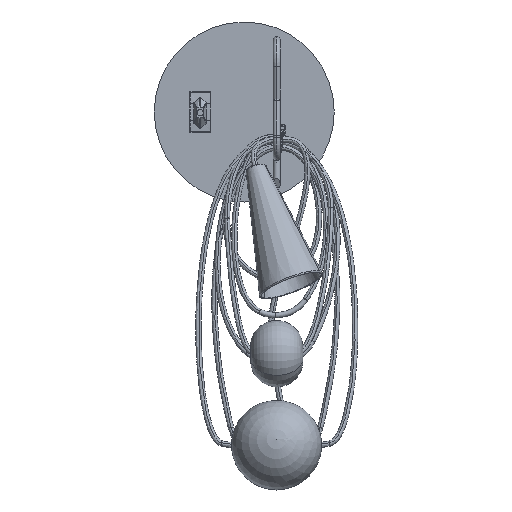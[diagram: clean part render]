
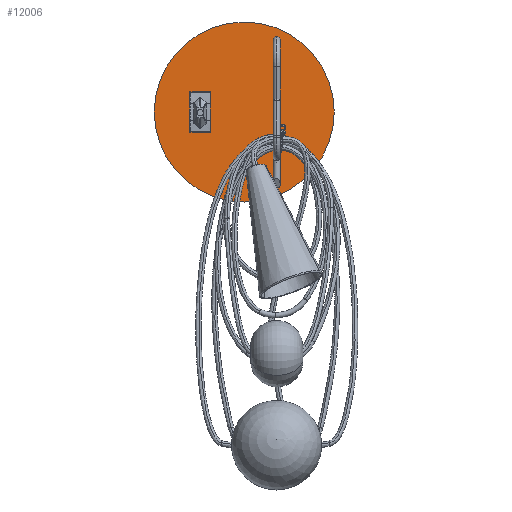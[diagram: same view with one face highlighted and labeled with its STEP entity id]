
A CAD part, top view. The second image highlights one B-rep face of the part: STEP entity #12006.
In plain terms, the highlighted planar face has unit normal (0, 0, 1).
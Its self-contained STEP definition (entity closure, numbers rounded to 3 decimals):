
#313 = CARTESIAN_POINT ( 'NONE',  ( -157.892, 68.713, 57.06 ) ) ;
#420 = AXIS2_PLACEMENT_3D ( 'NONE', #36933, #19531, #9419 ) ;
#1991 = EDGE_LOOP ( 'NONE', ( #34986, #22743, #29095, #43476 ) ) ;
#2192 = VERTEX_POINT ( 'NONE', #30392 ) ;
#2196 = AXIS2_PLACEMENT_3D ( 'NONE', #40534, #37362, #23006 ) ;
#2566 = FACE_BOUND ( 'NONE', #39995, .T. ) ;
#3911 = FACE_BOUND ( 'NONE', #18890, .T. ) ;
#4087 = VERTEX_POINT ( 'NONE', #25238 ) ;
#4643 = AXIS2_PLACEMENT_3D ( 'NONE', #7022, #17553, #10857 ) ;
#5183 = EDGE_CURVE ( 'NONE', #4087, #2192, #31025, .T. ) ;
#5329 = VECTOR ( 'NONE', #9520, 1000. ) ;
#5865 = CARTESIAN_POINT ( 'NONE',  ( -157.892, 23.913, 57.06 ) ) ;
#5884 = VECTOR ( 'NONE', #20282, 1000. ) ;
#6178 = CARTESIAN_POINT ( 'NONE',  ( -135.392, 23.913, 57.06 ) ) ;
#6462 = CARTESIAN_POINT ( 'NONE',  ( -97.642, -53.687, 57.06 ) ) ;
#7022 = CARTESIAN_POINT ( 'NONE',  ( -61.642, -9.687, 57.06 ) ) ;
#7398 = PLANE ( 'NONE',  #22020 ) ;
#7618 = DIRECTION ( 'NONE',  ( 0., -1., 0. ) ) ;
#8062 = CARTESIAN_POINT ( 'NONE',  ( -61.642, 61.963, 57.06 ) ) ;
#9141 = EDGE_CURVE ( 'NONE', #24793, #13075, #23119, .T. ) ;
#9419 = DIRECTION ( 'NONE',  ( 0., -1., 0. ) ) ;
#9520 = DIRECTION ( 'NONE',  ( 0., -1., 0. ) ) ;
#9696 = LINE ( 'NONE', #9922, #5884 ) ;
#9736 = CARTESIAN_POINT ( 'NONE',  ( -157.892, 68.713, 57.06 ) ) ;
#9922 = CARTESIAN_POINT ( 'NONE',  ( -157.892, 23.913, 57.06 ) ) ;
#10372 = CIRCLE ( 'NONE', #25785, 1.65 ) ;
#10857 = DIRECTION ( 'NONE',  ( 0., -1., 0. ) ) ;
#12006 = ADVANCED_FACE ( 'NONE', ( #2566, #3911, #32135, #34887 ), #7398, .T. ) ;
#12740 = EDGE_CURVE ( 'NONE', #45242, #22623, #10372, .T. ) ;
#13075 = VERTEX_POINT ( 'NONE', #45081 ) ;
#13758 = ORIENTED_EDGE ( 'NONE', *, *, #26347, .F. ) ;
#14341 = CIRCLE ( 'NONE', #21705, 100. ) ;
#14645 = CIRCLE ( 'NONE', #2196, 1.65 ) ;
#14833 = EDGE_CURVE ( 'NONE', #37994, #19027, #37748, .T. ) ;
#16857 = LINE ( 'NONE', #9736, #23102 ) ;
#17440 = DIRECTION ( 'NONE',  ( 0., 0., 1. ) ) ;
#17553 = DIRECTION ( 'NONE',  ( 0., 0., 1. ) ) ;
#18890 = EDGE_LOOP ( 'NONE', ( #36869, #22481 ) ) ;
#19027 = VERTEX_POINT ( 'NONE', #6462 ) ;
#19494 = CARTESIAN_POINT ( 'NONE',  ( -135.392, 68.713, 57.06 ) ) ;
#19498 = VERTEX_POINT ( 'NONE', #22724 ) ;
#19531 = DIRECTION ( 'NONE',  ( 0., 0., 1. ) ) ;
#20176 = DIRECTION ( 'NONE',  ( 0., 1., 0. ) ) ;
#20282 = DIRECTION ( 'NONE',  ( 1., 0., 0. ) ) ;
#20462 = ORIENTED_EDGE ( 'NONE', *, *, #38769, .T. ) ;
#21705 = AXIS2_PLACEMENT_3D ( 'NONE', #30401, #30868, #44793 ) ;
#21762 = VERTEX_POINT ( 'NONE', #19494 ) ;
#22020 = AXIS2_PLACEMENT_3D ( 'NONE', #25298, #35571, #7618 ) ;
#22481 = ORIENTED_EDGE ( 'NONE', *, *, #5183, .F. ) ;
#22586 = DIRECTION ( 'NONE',  ( 0., -1., 0. ) ) ;
#22623 = VERTEX_POINT ( 'NONE', #36336 ) ;
#22724 = CARTESIAN_POINT ( 'NONE',  ( -135.392, 23.913, 57.06 ) ) ;
#22743 = ORIENTED_EDGE ( 'NONE', *, *, #34390, .F. ) ;
#23006 = DIRECTION ( 'NONE',  ( 0., -1., 0. ) ) ;
#23102 = VECTOR ( 'NONE', #23790, 1000. ) ;
#23119 = LINE ( 'NONE', #5865, #5329 ) ;
#23790 = DIRECTION ( 'NONE',  ( -1., 0., 0. ) ) ;
#24793 = VERTEX_POINT ( 'NONE', #313 ) ;
#25238 = CARTESIAN_POINT ( 'NONE',  ( -61.642, -8.037, 57.06 ) ) ;
#25298 = CARTESIAN_POINT ( 'NONE',  ( -97.642, 46.313, 57.06 ) ) ;
#25712 = EDGE_CURVE ( 'NONE', #21762, #24793, #16857, .T. ) ;
#25785 = AXIS2_PLACEMENT_3D ( 'NONE', #32639, #43798, #22586 ) ;
#25909 = ORIENTED_EDGE ( 'NONE', *, *, #14833, .T. ) ;
#26347 = EDGE_CURVE ( 'NONE', #22623, #45242, #39177, .T. ) ;
#26771 = AXIS2_PLACEMENT_3D ( 'NONE', #32091, #17440, #39144 ) ;
#29095 = ORIENTED_EDGE ( 'NONE', *, *, #9141, .F. ) ;
#30392 = CARTESIAN_POINT ( 'NONE',  ( -61.642, -11.337, 57.06 ) ) ;
#30401 = CARTESIAN_POINT ( 'NONE',  ( -97.642, 46.313, 57.06 ) ) ;
#30868 = DIRECTION ( 'NONE',  ( 0., 0., 1. ) ) ;
#31025 = CIRCLE ( 'NONE', #4643, 1.65 ) ;
#31622 = EDGE_CURVE ( 'NONE', #2192, #4087, #14645, .T. ) ;
#32091 = CARTESIAN_POINT ( 'NONE',  ( -61.642, 60.313, 57.06 ) ) ;
#32135 = FACE_BOUND ( 'NONE', #1991, .T. ) ;
#32639 = CARTESIAN_POINT ( 'NONE',  ( -61.642, 60.313, 57.06 ) ) ;
#33047 = EDGE_CURVE ( 'NONE', #19498, #21762, #37550, .T. ) ;
#34004 = EDGE_LOOP ( 'NONE', ( #20462, #25909 ) ) ;
#34390 = EDGE_CURVE ( 'NONE', #13075, #19498, #9696, .T. ) ;
#34887 = FACE_OUTER_BOUND ( 'NONE', #34004, .T. ) ;
#34986 = ORIENTED_EDGE ( 'NONE', *, *, #33047, .F. ) ;
#35571 = DIRECTION ( 'NONE',  ( 0., 0., 1. ) ) ;
#35805 = VECTOR ( 'NONE', #20176, 1000. ) ;
#36336 = CARTESIAN_POINT ( 'NONE',  ( -61.642, 58.663, 57.06 ) ) ;
#36869 = ORIENTED_EDGE ( 'NONE', *, *, #31622, .F. ) ;
#36933 = CARTESIAN_POINT ( 'NONE',  ( -97.642, 46.313, 57.06 ) ) ;
#37362 = DIRECTION ( 'NONE',  ( 0., 0., 1. ) ) ;
#37550 = LINE ( 'NONE', #6178, #35805 ) ;
#37748 = CIRCLE ( 'NONE', #420, 100. ) ;
#37994 = VERTEX_POINT ( 'NONE', #43530 ) ;
#38769 = EDGE_CURVE ( 'NONE', #19027, #37994, #14341, .T. ) ;
#39144 = DIRECTION ( 'NONE',  ( 0., -1., 0. ) ) ;
#39177 = CIRCLE ( 'NONE', #26771, 1.65 ) ;
#39995 = EDGE_LOOP ( 'NONE', ( #13758, #40321 ) ) ;
#40321 = ORIENTED_EDGE ( 'NONE', *, *, #12740, .F. ) ;
#40534 = CARTESIAN_POINT ( 'NONE',  ( -61.642, -9.687, 57.06 ) ) ;
#43476 = ORIENTED_EDGE ( 'NONE', *, *, #25712, .F. ) ;
#43530 = CARTESIAN_POINT ( 'NONE',  ( -97.642, 146.313, 57.06 ) ) ;
#43798 = DIRECTION ( 'NONE',  ( 0., 0., 1. ) ) ;
#44793 = DIRECTION ( 'NONE',  ( 0., -1., 0. ) ) ;
#45081 = CARTESIAN_POINT ( 'NONE',  ( -157.892, 23.913, 57.06 ) ) ;
#45242 = VERTEX_POINT ( 'NONE', #8062 ) ;
